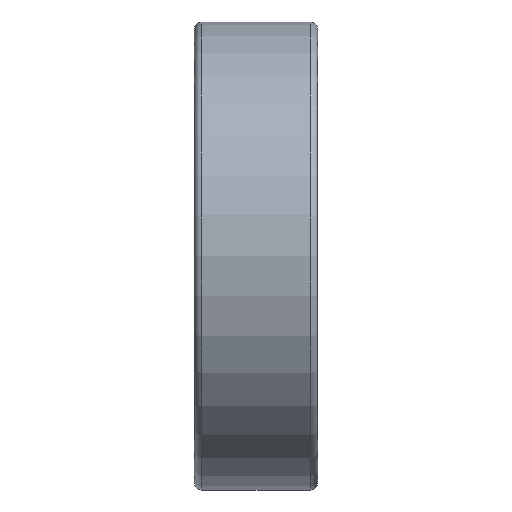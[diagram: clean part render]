
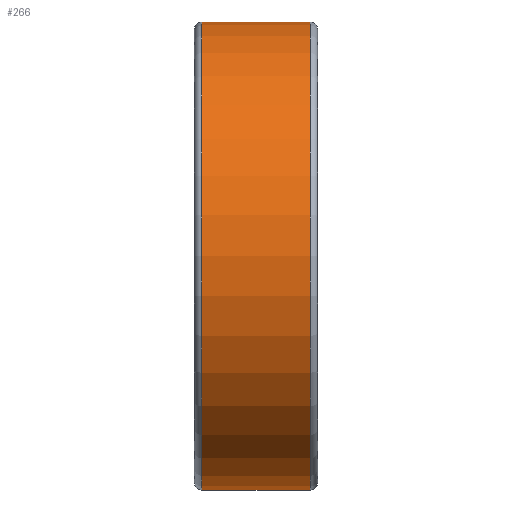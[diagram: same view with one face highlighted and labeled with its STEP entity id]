
A CAD part, top view. The second image highlights one B-rep face of the part: STEP entity #266.
In plain terms, the highlighted cylindrical face has radius 9.5 mm (diameter 19 mm), a partial arc.
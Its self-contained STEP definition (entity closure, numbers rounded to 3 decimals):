
#146=CYLINDRICAL_SURFACE('',#1917,9.5);
#266=ADVANCED_FACE('',(#354),#146,.T.);
#354=FACE_OUTER_BOUND('',#443,.F.);
#443=EDGE_LOOP('',(#567,#568,#569,#570));
#567=ORIENTED_EDGE('',*,*,#1520,.T.);
#568=ORIENTED_EDGE('',*,*,#1534,.F.);
#569=ORIENTED_EDGE('',*,*,#1521,.F.);
#570=ORIENTED_EDGE('',*,*,#1535,.T.);
#1468=LINE('',#2636,#1488);
#1469=LINE('',#2637,#1489);
#1488=VECTOR('',#2141,4.4);
#1489=VECTOR('',#2142,4.4);
#1520=EDGE_CURVE('',#1799,#1801,#1468,.T.);
#1521=EDGE_CURVE('',#1798,#1800,#1469,.T.);
#1534=EDGE_CURVE('',#1800,#1801,#1674,.T.);
#1535=EDGE_CURVE('',#1798,#1799,#1675,.T.);
#1674=CIRCLE('',#1898,9.5);
#1675=CIRCLE('',#1899,9.5);
#1798=VERTEX_POINT('',#2614);
#1799=VERTEX_POINT('',#2615);
#1800=VERTEX_POINT('',#2616);
#1801=VERTEX_POINT('',#2617);
#1898=AXIS2_PLACEMENT_3D('',#2650,#2161,#2162);
#1899=AXIS2_PLACEMENT_3D('',#2651,#2163,#2164);
#1917=AXIS2_PLACEMENT_3D('',#2669,#2199,#2200);
#2141=DIRECTION('',(-1.,0.,0.));
#2142=DIRECTION('',(-1.,0.,0.));
#2161=DIRECTION('',(1.,0.,0.));
#2162=DIRECTION('',(0.,1.,0.));
#2163=DIRECTION('',(1.,0.,0.));
#2164=DIRECTION('',(0.,1.,0.));
#2199=DIRECTION('',(1.,0.,0.));
#2200=DIRECTION('',(0.,1.,0.));
#2614=CARTESIAN_POINT('',(966.775,319.596,416.874));
#2615=CARTESIAN_POINT('',(966.775,300.596,416.874));
#2616=CARTESIAN_POINT('',(962.375,319.596,416.874));
#2617=CARTESIAN_POINT('',(962.375,300.596,416.874));
#2636=CARTESIAN_POINT('',(966.775,300.596,416.874));
#2637=CARTESIAN_POINT('',(966.775,319.596,416.874));
#2650=CARTESIAN_POINT('',(962.375,310.096,416.874));
#2651=CARTESIAN_POINT('',(966.775,310.096,416.874));
#2669=CARTESIAN_POINT('',(966.775,310.096,416.874));
